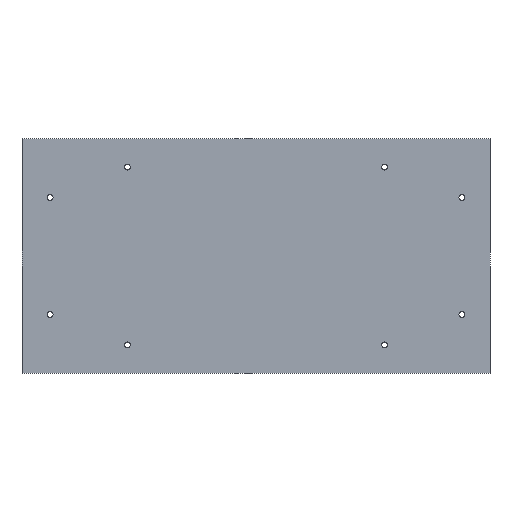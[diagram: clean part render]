
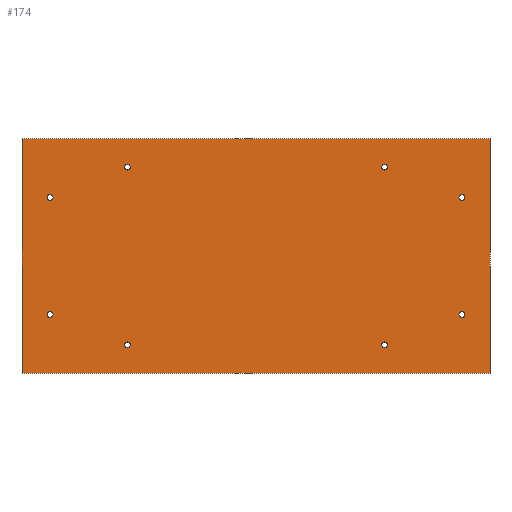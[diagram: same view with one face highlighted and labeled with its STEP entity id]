
A CAD part, front view. The second image highlights one B-rep face of the part: STEP entity #174.
In plain terms, the highlighted planar face has unit normal (0, -1, 0).
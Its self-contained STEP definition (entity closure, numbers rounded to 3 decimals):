
#8 = EDGE_LOOP ( 'NONE', ( #604 ) ) ;
#13 = EDGE_LOOP ( 'NONE', ( #307 ) ) ;
#14 = VERTEX_POINT ( 'NONE', #58 ) ;
#15 = CIRCLE ( 'NONE', #455, 2.5 ) ;
#16 = EDGE_LOOP ( 'NONE', ( #435 ) ) ;
#25 = CIRCLE ( 'NONE', #502, 2.5 ) ;
#31 = ORIENTED_EDGE ( 'NONE', *, *, #48, .T. ) ;
#37 = CARTESIAN_POINT ( 'NONE',  ( 200., 0., 100. ) ) ;
#40 = ORIENTED_EDGE ( 'NONE', *, *, #477, .F. ) ;
#41 = DIRECTION ( 'NONE',  ( 0., 0., 1. ) ) ;
#43 = FACE_BOUND ( 'NONE', #113, .T. ) ;
#48 = EDGE_CURVE ( 'NONE', #14, #14, #544, .T. ) ;
#50 = CARTESIAN_POINT ( 'NONE',  ( -200., 0., -100. ) ) ;
#58 = CARTESIAN_POINT ( 'NONE',  ( -176., 0., -47.5 ) ) ;
#65 = VERTEX_POINT ( 'NONE', #212 ) ;
#85 = DIRECTION ( 'NONE',  ( 0., 0., 1. ) ) ;
#89 = EDGE_CURVE ( 'NONE', #522, #522, #25, .T. ) ;
#106 = CIRCLE ( 'NONE', #329, 2.5 ) ;
#112 = DIRECTION ( 'NONE',  ( 0., 0., 1. ) ) ;
#113 = EDGE_LOOP ( 'NONE', ( #31 ) ) ;
#114 = AXIS2_PLACEMENT_3D ( 'NONE', #480, #332, #41 ) ;
#116 = EDGE_CURVE ( 'NONE', #215, #535, #333, .T. ) ;
#119 = EDGE_LOOP ( 'NONE', ( #298, #40, #358, #316 ) ) ;
#126 = DIRECTION ( 'NONE',  ( 0., 1., 0. ) ) ;
#131 = FACE_BOUND ( 'NONE', #13, .T. ) ;
#132 = CARTESIAN_POINT ( 'NONE',  ( -110., 0., -73.5 ) ) ;
#134 = DIRECTION ( 'NONE',  ( 0., 0., 1. ) ) ;
#143 = DIRECTION ( 'NONE',  ( 0., 1., 0. ) ) ;
#174 = ADVANCED_FACE ( 'NONE', ( #533, #590, #180, #281, #131, #43, #650, #395, #658 ), #498, .T. ) ;
#180 = FACE_BOUND ( 'NONE', #8, .T. ) ;
#185 = EDGE_LOOP ( 'NONE', ( #459 ) ) ;
#191 = DIRECTION ( 'NONE',  ( 0., 0., 1. ) ) ;
#204 = EDGE_CURVE ( 'NONE', #505, #626, #251, .T. ) ;
#207 = ORIENTED_EDGE ( 'NONE', *, *, #610, .T. ) ;
#211 = AXIS2_PLACEMENT_3D ( 'NONE', #290, #126, #489 ) ;
#212 = CARTESIAN_POINT ( 'NONE',  ( -176., 0., 52.5 ) ) ;
#215 = VERTEX_POINT ( 'NONE', #551 ) ;
#219 = VERTEX_POINT ( 'NONE', #623 ) ;
#222 = VERTEX_POINT ( 'NONE', #293 ) ;
#236 = CARTESIAN_POINT ( 'NONE',  ( -110., 0., 76. ) ) ;
#247 = CARTESIAN_POINT ( 'NONE',  ( 0., 0., 0. ) ) ;
#250 = DIRECTION ( 'NONE',  ( 0., 1., 0. ) ) ;
#251 = LINE ( 'NONE', #345, #662 ) ;
#263 = EDGE_CURVE ( 'NONE', #327, #327, #445, .T. ) ;
#281 = FACE_BOUND ( 'NONE', #597, .T. ) ;
#283 = EDGE_CURVE ( 'NONE', #65, #65, #365, .T. ) ;
#290 = CARTESIAN_POINT ( 'NONE',  ( 110., 0., 76. ) ) ;
#293 = CARTESIAN_POINT ( 'NONE',  ( 110., 0., -73.5 ) ) ;
#298 = ORIENTED_EDGE ( 'NONE', *, *, #116, .F. ) ;
#304 = CARTESIAN_POINT ( 'NONE',  ( 200., 0., -100. ) ) ;
#305 = AXIS2_PLACEMENT_3D ( 'NONE', #247, #603, #349 ) ;
#307 = ORIENTED_EDGE ( 'NONE', *, *, #344, .T. ) ;
#308 = DIRECTION ( 'NONE',  ( -1., 0., 0. ) ) ;
#316 = ORIENTED_EDGE ( 'NONE', *, *, #467, .F. ) ;
#318 = CIRCLE ( 'NONE', #114, 2.5 ) ;
#321 = VECTOR ( 'NONE', #386, 1000. ) ;
#327 = VERTEX_POINT ( 'NONE', #571 ) ;
#329 = AXIS2_PLACEMENT_3D ( 'NONE', #609, #250, #356 ) ;
#332 = DIRECTION ( 'NONE',  ( 0., 1., 0. ) ) ;
#333 = LINE ( 'NONE', #37, #321 ) ;
#344 = EDGE_CURVE ( 'NONE', #219, #219, #318, .T. ) ;
#345 = CARTESIAN_POINT ( 'NONE',  ( -200., 0., 100. ) ) ;
#348 = CARTESIAN_POINT ( 'NONE',  ( 176., 0., 50. ) ) ;
#349 = DIRECTION ( 'NONE',  ( 0., 0., -1. ) ) ;
#355 = LINE ( 'NONE', #666, #401 ) ;
#356 = DIRECTION ( 'NONE',  ( 0., 0., 1. ) ) ;
#358 = ORIENTED_EDGE ( 'NONE', *, *, #204, .F. ) ;
#362 = AXIS2_PLACEMENT_3D ( 'NONE', #441, #143, #654 ) ;
#363 = VECTOR ( 'NONE', #308, 1000. ) ;
#365 = CIRCLE ( 'NONE', #362, 2.5 ) ;
#386 = DIRECTION ( 'NONE',  ( 0., 0., -1. ) ) ;
#389 = EDGE_LOOP ( 'NONE', ( #574 ) ) ;
#395 = FACE_BOUND ( 'NONE', #496, .T. ) ;
#401 = VECTOR ( 'NONE', #660, 1000. ) ;
#403 = AXIS2_PLACEMENT_3D ( 'NONE', #542, #433, #134 ) ;
#409 = AXIS2_PLACEMENT_3D ( 'NONE', #421, #628, #112 ) ;
#421 = CARTESIAN_POINT ( 'NONE',  ( -110., 0., -76. ) ) ;
#433 = DIRECTION ( 'NONE',  ( 0., 1., 0. ) ) ;
#435 = ORIENTED_EDGE ( 'NONE', *, *, #263, .T. ) ;
#441 = CARTESIAN_POINT ( 'NONE',  ( -176., 0., 50. ) ) ;
#444 = ORIENTED_EDGE ( 'NONE', *, *, #283, .T. ) ;
#445 = CIRCLE ( 'NONE', #211, 2.5 ) ;
#449 = EDGE_CURVE ( 'NONE', #222, #222, #106, .T. ) ;
#455 = AXIS2_PLACEMENT_3D ( 'NONE', #348, #503, #605 ) ;
#459 = ORIENTED_EDGE ( 'NONE', *, *, #550, .T. ) ;
#467 = EDGE_CURVE ( 'NONE', #535, #505, #507, .T. ) ;
#475 = CARTESIAN_POINT ( 'NONE',  ( -110., 0., 78.5 ) ) ;
#477 = EDGE_CURVE ( 'NONE', #626, #215, #355, .T. ) ;
#480 = CARTESIAN_POINT ( 'NONE',  ( 176., 0., -50. ) ) ;
#484 = DIRECTION ( 'NONE',  ( 0., 1., 0. ) ) ;
#486 = CARTESIAN_POINT ( 'NONE',  ( 176., 0., 52.5 ) ) ;
#489 = DIRECTION ( 'NONE',  ( 0., 0., 1. ) ) ;
#496 = EDGE_LOOP ( 'NONE', ( #207 ) ) ;
#498 = PLANE ( 'NONE',  #305 ) ;
#502 = AXIS2_PLACEMENT_3D ( 'NONE', #236, #484, #85 ) ;
#503 = DIRECTION ( 'NONE',  ( 0., 1., 0. ) ) ;
#505 = VERTEX_POINT ( 'NONE', #657 ) ;
#507 = LINE ( 'NONE', #50, #363 ) ;
#522 = VERTEX_POINT ( 'NONE', #475 ) ;
#533 = FACE_BOUND ( 'NONE', #389, .T. ) ;
#535 = VERTEX_POINT ( 'NONE', #304 ) ;
#542 = CARTESIAN_POINT ( 'NONE',  ( -176., 0., -50. ) ) ;
#544 = CIRCLE ( 'NONE', #403, 2.5 ) ;
#550 = EDGE_CURVE ( 'NONE', #591, #591, #15, .T. ) ;
#551 = CARTESIAN_POINT ( 'NONE',  ( 200., 0., 100. ) ) ;
#566 = CARTESIAN_POINT ( 'NONE',  ( -200., 0., 100. ) ) ;
#571 = CARTESIAN_POINT ( 'NONE',  ( 110., 0., 78.5 ) ) ;
#574 = ORIENTED_EDGE ( 'NONE', *, *, #449, .T. ) ;
#590 = FACE_BOUND ( 'NONE', #16, .T. ) ;
#591 = VERTEX_POINT ( 'NONE', #486 ) ;
#597 = EDGE_LOOP ( 'NONE', ( #444 ) ) ;
#603 = DIRECTION ( 'NONE',  ( 0., -1., 0. ) ) ;
#604 = ORIENTED_EDGE ( 'NONE', *, *, #89, .T. ) ;
#605 = DIRECTION ( 'NONE',  ( 0., 0., 1. ) ) ;
#609 = CARTESIAN_POINT ( 'NONE',  ( 110., 0., -76. ) ) ;
#610 = EDGE_CURVE ( 'NONE', #639, #639, #636, .T. ) ;
#623 = CARTESIAN_POINT ( 'NONE',  ( 176., 0., -47.5 ) ) ;
#626 = VERTEX_POINT ( 'NONE', #566 ) ;
#628 = DIRECTION ( 'NONE',  ( 0., 1., 0. ) ) ;
#636 = CIRCLE ( 'NONE', #409, 2.5 ) ;
#639 = VERTEX_POINT ( 'NONE', #132 ) ;
#650 = FACE_BOUND ( 'NONE', #185, .T. ) ;
#654 = DIRECTION ( 'NONE',  ( 0., 0., 1. ) ) ;
#657 = CARTESIAN_POINT ( 'NONE',  ( -200., 0., -100. ) ) ;
#658 = FACE_OUTER_BOUND ( 'NONE', #119, .T. ) ;
#660 = DIRECTION ( 'NONE',  ( 1., 0., 0. ) ) ;
#662 = VECTOR ( 'NONE', #191, 1000. ) ;
#666 = CARTESIAN_POINT ( 'NONE',  ( -200., 0., 100. ) ) ;
